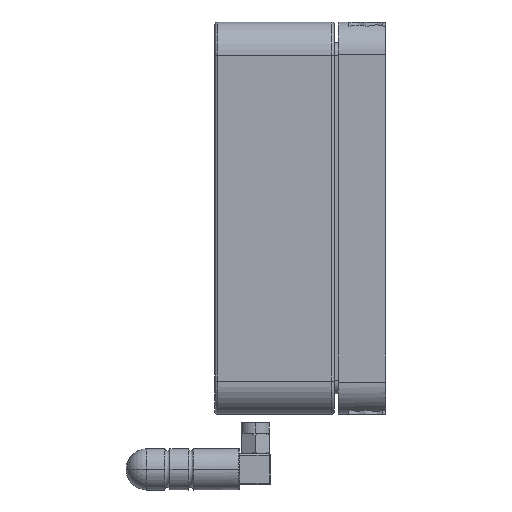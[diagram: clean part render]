
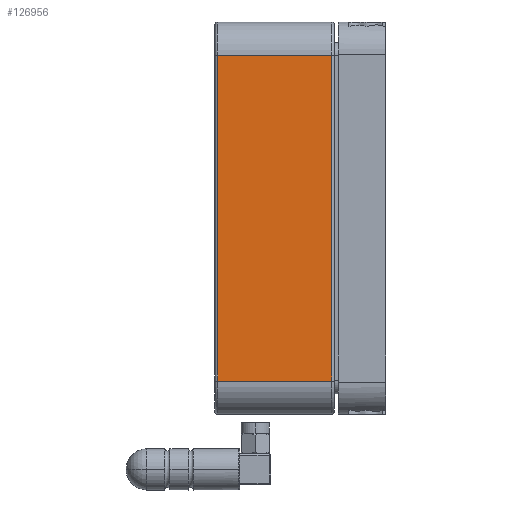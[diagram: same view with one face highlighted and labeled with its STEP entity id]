
A CAD part, left-side view. The second image highlights one B-rep face of the part: STEP entity #126956.
In plain terms, the highlighted planar face has unit normal (-1, 0, 0).
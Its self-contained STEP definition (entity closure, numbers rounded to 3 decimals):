
#113200 = CYLINDRICAL_SURFACE('',#113201,0.5);
#113201 = AXIS2_PLACEMENT_3D('',#113202,#113203,#113204);
#113202 = CARTESIAN_POINT('',(-41.65,26.5,-31.679));
#113203 = DIRECTION('',(0.,0.,1.));
#113204 = DIRECTION('',(0.,1.,0.));
#115112 = VERTEX_POINT('',#115113);
#115113 = CARTESIAN_POINT('',(-42.15,26.5,-31.5));
#115128 = CYLINDRICAL_SURFACE('',#115129,6.5);
#115129 = AXIS2_PLACEMENT_3D('',#115130,#115131,#115132);
#115130 = CARTESIAN_POINT('',(-35.65,62.197,-31.5));
#115131 = DIRECTION('',(0.,-1.,0.));
#115132 = DIRECTION('',(-1.,0.,0.));
#115167 = EDGE_CURVE('',#115112,#115168,#115170,.T.);
#115168 = VERTEX_POINT('',#115169);
#115169 = CARTESIAN_POINT('',(-42.15,26.5,31.5));
#115170 = SURFACE_CURVE('',#115171,(#115175,#115182),.PCURVE_S1.);
#115171 = LINE('',#115172,#115173);
#115172 = CARTESIAN_POINT('',(-42.15,26.5,-31.5));
#115173 = VECTOR('',#115174,1.);
#115174 = DIRECTION('',(0.,0.,1.));
#115175 = PCURVE('',#113200,#115176);
#115176 = DEFINITIONAL_REPRESENTATION('',(#115177),#115181);
#115177 = LINE('',#115178,#115179);
#115178 = CARTESIAN_POINT('',(1.571,0.179));
#115179 = VECTOR('',#115180,1.);
#115180 = DIRECTION('',(0.,1.));
#115181 = ( GEOMETRIC_REPRESENTATION_CONTEXT(2) 
PARAMETRIC_REPRESENTATION_CONTEXT() REPRESENTATION_CONTEXT('2D SPACE',''
  ) );
#115182 = PCURVE('',#115183,#115188);
#115183 = PLANE('',#115184);
#115184 = AXIS2_PLACEMENT_3D('',#115185,#115186,#115187);
#115185 = CARTESIAN_POINT('',(-42.15,0.,-38.));
#115186 = DIRECTION('',(-1.,0.,0.));
#115187 = DIRECTION('',(0.,0.,1.));
#115188 = DEFINITIONAL_REPRESENTATION('',(#115189),#115193);
#115189 = LINE('',#115190,#115191);
#115190 = CARTESIAN_POINT('',(6.5,26.5));
#115191 = VECTOR('',#115192,1.);
#115192 = DIRECTION('',(1.,0.));
#115193 = ( GEOMETRIC_REPRESENTATION_CONTEXT(2) 
PARAMETRIC_REPRESENTATION_CONTEXT() REPRESENTATION_CONTEXT('2D SPACE',''
  ) );
#115239 = CYLINDRICAL_SURFACE('',#115240,6.5);
#115240 = AXIS2_PLACEMENT_3D('',#115241,#115242,#115243);
#115241 = CARTESIAN_POINT('',(-35.65,62.197,31.5));
#115242 = DIRECTION('',(0.,-1.,0.));
#115243 = DIRECTION('',(0.,0.,1.));
#115614 = CYLINDRICAL_SURFACE('',#115615,0.5);
#115615 = AXIS2_PLACEMENT_3D('',#115616,#115617,#115618);
#115616 = CARTESIAN_POINT('',(-41.65,4.4,31.755));
#115617 = DIRECTION('',(0.,0.,-1.));
#115618 = DIRECTION('',(0.,-1.,0.));
#126883 = VERTEX_POINT('',#126884);
#126884 = CARTESIAN_POINT('',(-42.15,4.4,-31.5));
#126933 = EDGE_CURVE('',#115112,#126883,#126934,.T.);
#126934 = SURFACE_CURVE('',#126935,(#126939,#126946),.PCURVE_S1.);
#126935 = LINE('',#126936,#126937);
#126936 = CARTESIAN_POINT('',(-42.15,26.5,-31.5));
#126937 = VECTOR('',#126938,1.);
#126938 = DIRECTION('',(0.,-1.,0.));
#126939 = PCURVE('',#115128,#126940);
#126940 = DEFINITIONAL_REPRESENTATION('',(#126941),#126945);
#126941 = LINE('',#126942,#126943);
#126942 = CARTESIAN_POINT('',(0.,35.697));
#126943 = VECTOR('',#126944,1.);
#126944 = DIRECTION('',(0.,1.));
#126945 = ( GEOMETRIC_REPRESENTATION_CONTEXT(2) 
PARAMETRIC_REPRESENTATION_CONTEXT() REPRESENTATION_CONTEXT('2D SPACE',''
  ) );
#126946 = PCURVE('',#115183,#126947);
#126947 = DEFINITIONAL_REPRESENTATION('',(#126948),#126952);
#126948 = LINE('',#126949,#126950);
#126949 = CARTESIAN_POINT('',(6.5,26.5));
#126950 = VECTOR('',#126951,1.);
#126951 = DIRECTION('',(0.,-1.));
#126952 = ( GEOMETRIC_REPRESENTATION_CONTEXT(2) 
PARAMETRIC_REPRESENTATION_CONTEXT() REPRESENTATION_CONTEXT('2D SPACE',''
  ) );
#126956 = ADVANCED_FACE('',(#126957),#115183,.T.);
#126957 = FACE_BOUND('',#126958,.F.);
#126958 = EDGE_LOOP('',(#126959,#126982,#126983,#126984));
#126959 = ORIENTED_EDGE('',*,*,#126960,.T.);
#126960 = EDGE_CURVE('',#126961,#126883,#126963,.T.);
#126961 = VERTEX_POINT('',#126962);
#126962 = CARTESIAN_POINT('',(-42.15,4.4,31.5));
#126963 = SURFACE_CURVE('',#126964,(#126968,#126975),.PCURVE_S1.);
#126964 = LINE('',#126965,#126966);
#126965 = CARTESIAN_POINT('',(-42.15,4.4,31.5));
#126966 = VECTOR('',#126967,1.);
#126967 = DIRECTION('',(0.,0.,-1.));
#126968 = PCURVE('',#115183,#126969);
#126969 = DEFINITIONAL_REPRESENTATION('',(#126970),#126974);
#126970 = LINE('',#126971,#126972);
#126971 = CARTESIAN_POINT('',(69.5,4.4));
#126972 = VECTOR('',#126973,1.);
#126973 = DIRECTION('',(-1.,0.));
#126974 = ( GEOMETRIC_REPRESENTATION_CONTEXT(2) 
PARAMETRIC_REPRESENTATION_CONTEXT() REPRESENTATION_CONTEXT('2D SPACE',''
  ) );
#126975 = PCURVE('',#115614,#126976);
#126976 = DEFINITIONAL_REPRESENTATION('',(#126977),#126981);
#126977 = LINE('',#126978,#126979);
#126978 = CARTESIAN_POINT('',(1.571,0.255));
#126979 = VECTOR('',#126980,1.);
#126980 = DIRECTION('',(0.,1.));
#126981 = ( GEOMETRIC_REPRESENTATION_CONTEXT(2) 
PARAMETRIC_REPRESENTATION_CONTEXT() REPRESENTATION_CONTEXT('2D SPACE',''
  ) );
#126982 = ORIENTED_EDGE('',*,*,#126933,.F.);
#126983 = ORIENTED_EDGE('',*,*,#115167,.T.);
#126984 = ORIENTED_EDGE('',*,*,#126985,.T.);
#126985 = EDGE_CURVE('',#115168,#126961,#126986,.T.);
#126986 = SURFACE_CURVE('',#126987,(#126991,#126998),.PCURVE_S1.);
#126987 = LINE('',#126988,#126989);
#126988 = CARTESIAN_POINT('',(-42.15,26.5,31.5));
#126989 = VECTOR('',#126990,1.);
#126990 = DIRECTION('',(0.,-1.,0.));
#126991 = PCURVE('',#115183,#126992);
#126992 = DEFINITIONAL_REPRESENTATION('',(#126993),#126997);
#126993 = LINE('',#126994,#126995);
#126994 = CARTESIAN_POINT('',(69.5,26.5));
#126995 = VECTOR('',#126996,1.);
#126996 = DIRECTION('',(0.,-1.));
#126997 = ( GEOMETRIC_REPRESENTATION_CONTEXT(2) 
PARAMETRIC_REPRESENTATION_CONTEXT() REPRESENTATION_CONTEXT('2D SPACE',''
  ) );
#126998 = PCURVE('',#115239,#126999);
#126999 = DEFINITIONAL_REPRESENTATION('',(#127000),#127004);
#127000 = LINE('',#127001,#127002);
#127001 = CARTESIAN_POINT('',(1.571,35.697));
#127002 = VECTOR('',#127003,1.);
#127003 = DIRECTION('',(0.,1.));
#127004 = ( GEOMETRIC_REPRESENTATION_CONTEXT(2) 
PARAMETRIC_REPRESENTATION_CONTEXT() REPRESENTATION_CONTEXT('2D SPACE',''
  ) );
